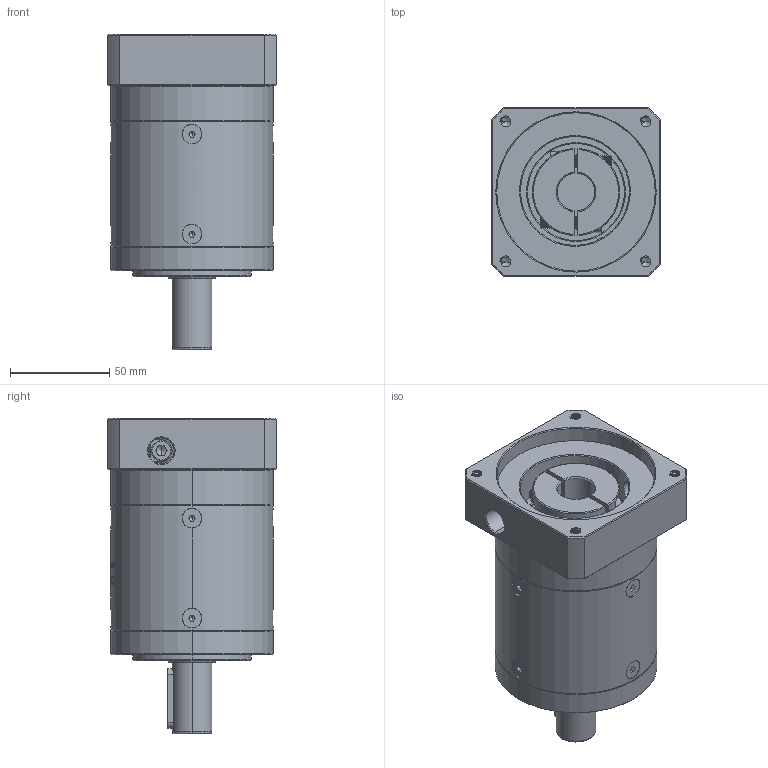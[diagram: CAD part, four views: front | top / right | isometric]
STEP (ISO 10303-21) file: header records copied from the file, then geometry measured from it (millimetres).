
FILE_DESCRIPTION (( 'STEP AP214' ), '1' );
FILE_NAME ('ZE80-D20-L2-19-80-100-M6.step', '2022-05-08T05:51:43', ( '' ), ( 'Microsoft' ), 'SwSTEP 2.0', 'SolidWorks 2016', '' );
FILE_SCHEMA (( 'AUTOMOTIVE_DESIGN' ));
Length unit declared in the file: millimetre
Products named in the file (1): ZE80-D20-L2-19-80-100-M6
Bounding box: 85 x 85 x 159.5 mm (x, y, z)
Volume: 611894.4 mm3; surface area: 90434.8 mm2
Topology: 13 solids, 13 shells, 2065 faces, 5375 edges, 3399 vertices
Faces by surface type: plane 891, cylinder 500, bspline 332, cone 325, torus 17
Entity records: 118369 total; most frequent: CARTESIAN_POINT 49402, ORIENTED_EDGE 10674, DIRECTION 8199, EDGE_CURVE 5337, VERTEX_POINT 3399, LINE 2859, VECTOR 2859, AXIS2_PLACEMENT_3D 2670
